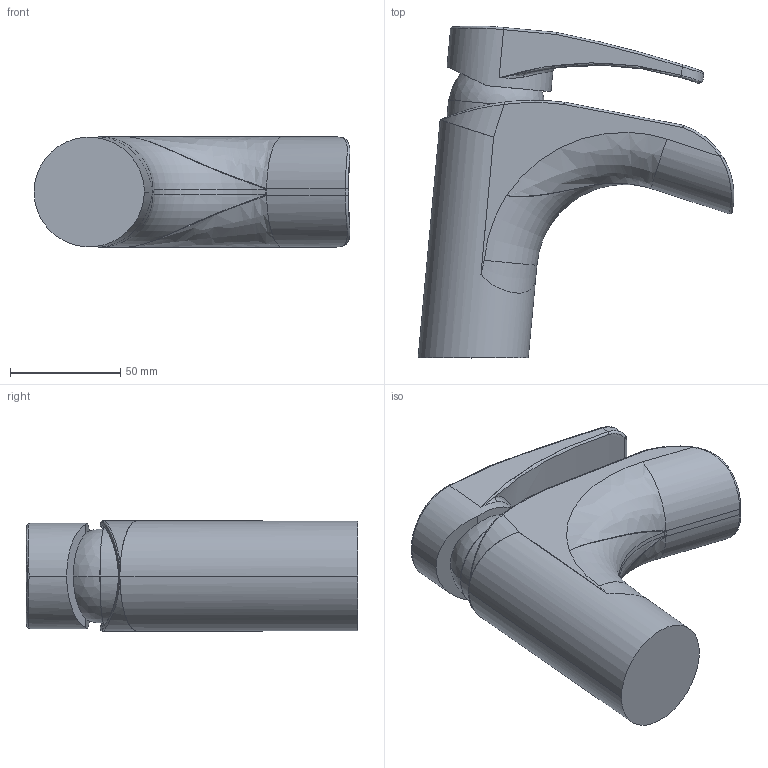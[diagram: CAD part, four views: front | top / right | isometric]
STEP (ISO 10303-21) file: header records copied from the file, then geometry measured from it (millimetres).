
FILE_DESCRIPTION (( 'STEP AP214' ), '1' );
FILE_NAME ('86CR211WFKM.STEP', '2020-04-12T10:42:41', ( '' ), ( '' ), 'SwSTEP 2.0', 'SolidWorks 2017', '' );
FILE_SCHEMA (( 'AUTOMOTIVE_DESIGN' ));
Length unit declared in the file: millimetre
Products named in the file (1): 86CR211WFKM
Bounding box: 143.3 x 150.6 x 50 mm (x, y, z)
Volume: 258488.3 mm3; surface area: 71613.8 mm2
Topology: 2 solids, 3 shells, 133 faces, 329 edges, 177 vertices
Faces by surface type: cylinder 43, bspline 41, plane 29, torus 16, sphere 4
Entity records: 8617 total; most frequent: CARTESIAN_POINT 5972, ORIENTED_EDGE 602, DIRECTION 465, EDGE_CURVE 301, AXIS2_PLACEMENT_3D 190, VERTEX_POINT 173, ADVANCED_FACE 132, FACE_OUTER_BOUND 132
